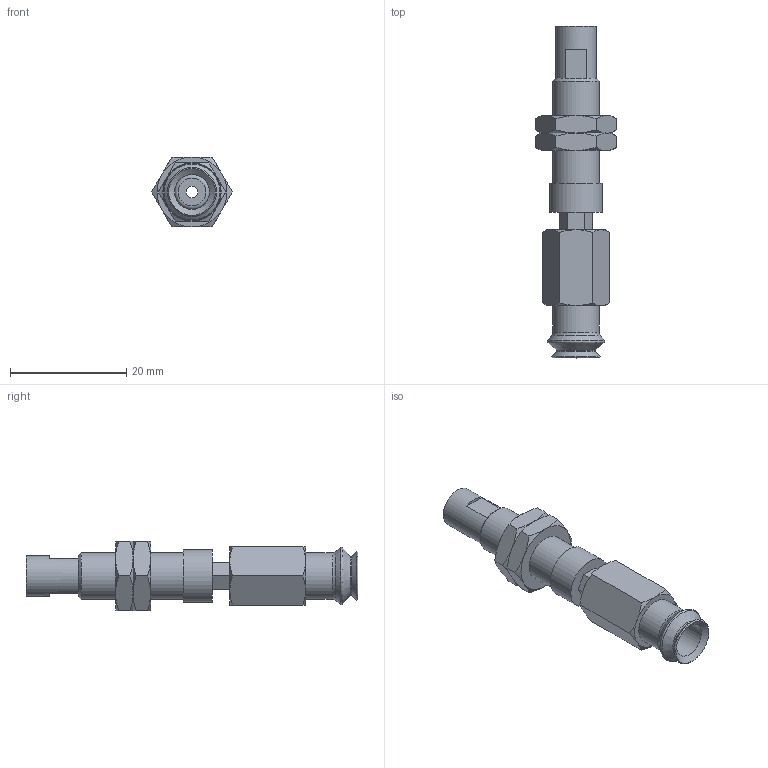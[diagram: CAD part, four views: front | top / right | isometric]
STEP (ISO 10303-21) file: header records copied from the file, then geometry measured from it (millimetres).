
FILE_DESCRIPTION(('STEP AP203'),'1');
FILE_NAME('.stp','2025-08-27T06:24:08',(' '),(' '),'Spatial InterOp 3D',' ',' ');
FILE_SCHEMA(('CONFIG_CONTROL_DESIGN'));
Length unit declared in the file: millimetre
Products named in the file (6): BNABPJTH-8-3-※; ADAPTER; NAPATH-10A-3--M; NAPJH-8-3-NUT; NAPJTH-8-3-FBODY; BPJG-8-※
Assembly tree (6 placements, depth 2):
  BNABPJTH-8-3-※
    ADAPTER
    NAPATH-10A-3--M
    NAPJH-8-3-NUT  x2
    NAPJTH-8-3-FBODY
    BPJG-8-※
Bounding box: 13.86 x 57 x 12 mm (x, y, z)
Volume: 3337.5 mm3; surface area: 3958.1 mm2
Topology: 6 solids, 6 shells, 120 faces, 260 edges, 157 vertices
Faces by surface type: plane 51, cone 47, cylinder 13, torus 9
Full cylindrical faces by diameter (mm): 2 x2, 4 x2, 4.134 x1, 6 x2, 7 x1, 7.188 x2, 8 x2, 9 x1
Entity records: 2920 total; most frequent: CARTESIAN_POINT 688, DIRECTION 402, ORIENTED_EDGE 348, EDGE_CURVE 174, AXIS2_PLACEMENT_3D 172, EDGE_LOOP 142, VERTEX_POINT 122, FACE_OUTER_BOUND 118
